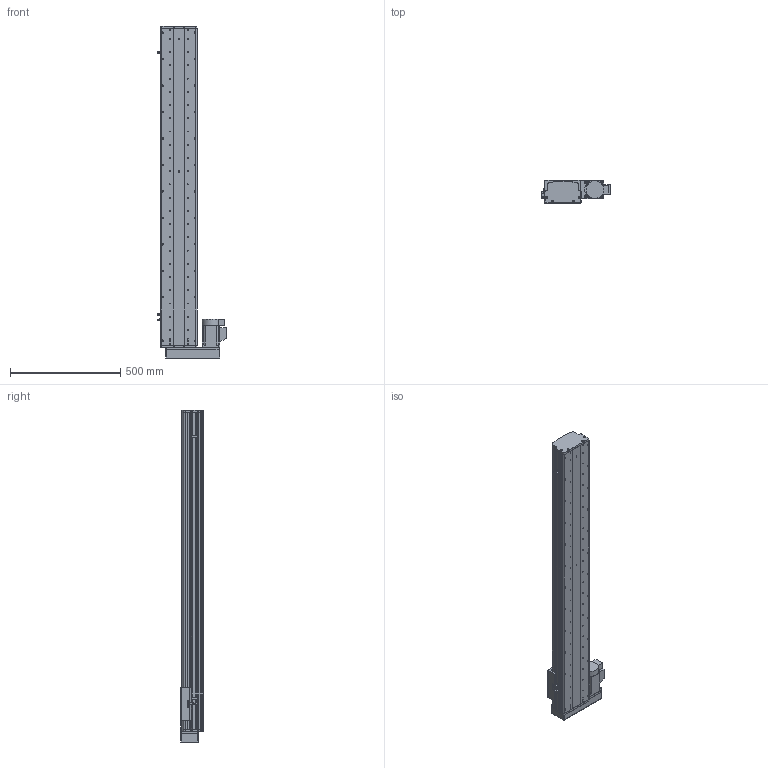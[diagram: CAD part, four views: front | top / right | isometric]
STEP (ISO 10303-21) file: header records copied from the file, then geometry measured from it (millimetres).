
FILE_DESCRIPTION (( 'STEP AP214' ), '1' );
FILE_NAME ('KSD165S-S1200-ML-CM.STEP', '2017-10-17T09:13:49', ( '微软用户' ), ( '微软中国' ), 'SwSTEP 2.0', 'SolidWorks 2014', '' );
FILE_SCHEMA (( 'AUTOMOTIVE_DESIGN' ));
Length unit declared in the file: millimetre
Products named in the file (16): KSD165S-S1200-ML-CM; 覜茼え68遵圉猾敕; U倰嫖萇EEㄜSX672; 拸秶雄ん750W侜督萇儂; KSD165模组-丝杆上下左右折前端板; HTPA26S5M250-A-H8丝杆用(内径14）; HTPA26S5M250-A-H8 750W萇儂蚚; 165宽模组马达安装板连板左右折丝杆; 165宽模组保护罩左右折; KSD165模组底板-1200行程-最新; KSD165模组-防尘盖1-1200行程-最新版; KSD165耀郪-佪裝-滅袉菜-3 -; KSD165耀郪-佪裝-滅袉菜-1; U倰嫖萇假蚾璃; KSD165耀郪-綴傷啣1; KSD165模组-丝杆滑动座-最新版
Assembly tree (19 placements, depth 2):
  KSD165S-S1200-ML-CM
    KSD165模组-丝杆滑动座-最新版
    KSD165耀郪-綴傷啣1
    U倰嫖萇假蚾璃  x3
    KSD165耀郪-佪裝-滅袉菜-1
    KSD165耀郪-佪裝-滅袉菜-3 -
    KSD165模组-防尘盖1-1200行程-最新版
    KSD165模组底板-1200行程-最新
    165宽模组保护罩左右折
    165宽模组马达安装板连板左右折丝杆
    HTPA26S5M250-A-H8 750W萇儂蚚
    HTPA26S5M250-A-H8丝杆用(内径14）
    KSD165模组-丝杆上下左右折前端板
    拸秶雄ん750W侜督萇儂
    U倰嫖萇EEㄜSX672  x3
    覜茼え68遵圉猾敕
Bounding box: 311.2 x 104 x 1505.5 mm (x, y, z)
Volume: 8775767.1 mm3; surface area: 2039735 mm2
Topology: 20 solids, 20 shells, 1885 faces, 5360 edges, 3507 vertices
Faces by surface type: cylinder 1235, plane 549, cone 101
Entity records: 62515 total; most frequent: CARTESIAN_POINT 13027, DIRECTION 10043, ORIENTED_EDGE 9408, EDGE_CURVE 4704, AXIS2_PLACEMENT_3D 3947, VERTEX_POINT 3099, CIRCLE 2260, VECTOR 2149
